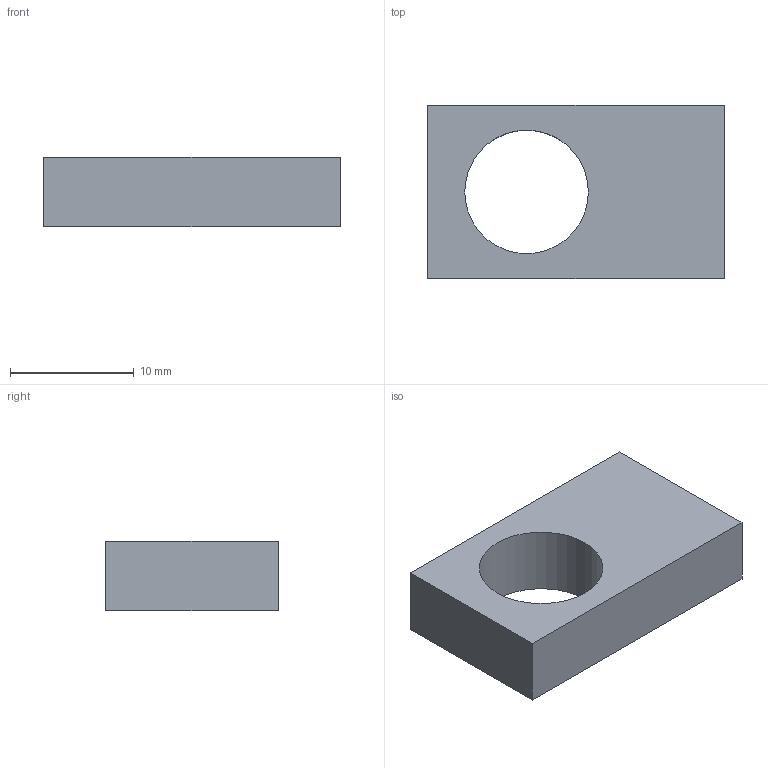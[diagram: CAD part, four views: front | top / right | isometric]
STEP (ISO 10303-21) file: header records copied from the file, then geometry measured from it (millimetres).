
FILE_DESCRIPTION(/* description */ (''),/* implementation_level */ '2;1');
FILE_NAME(/* name */ 'D:/pobrane/pwr/sem 6/konkurs kompozytywni/step/właz.step',/* time_stamp */ '2021-05-10T22:34:42+02:00',/* author */ (''),/* organization */ (''),/* preprocessor_version */ 'ST-DEVELOPER v18.1',/* originating_system */ 'Autodesk Translation Framework v10.6.0.1341',/* authorisation */ '');
FILE_SCHEMA (('AUTOMOTIVE_DESIGN { 1 0 10303 214 3 1 1 }'));
Length unit declared in the file: millimetre
Products named in the file (1): klapa
Bounding box: 24 x 14 x 5.6 mm (x, y, z)
Volume: 1396 mm3; surface area: 1150.4 mm2
Topology: 1 solids, 1 shells, 10 faces, 22 edges, 14 vertices
Faces by surface type: plane 7, cylinder 3
Full cylindrical faces by diameter (mm): 10 x1
Entity records: 327 total; most frequent: DIRECTION 51, CARTESIAN_POINT 48, ORIENTED_EDGE 46, EDGE_CURVE 23, LINE 17, VECTOR 17, AXIS2_PLACEMENT_3D 17, VERTEX_POINT 14
